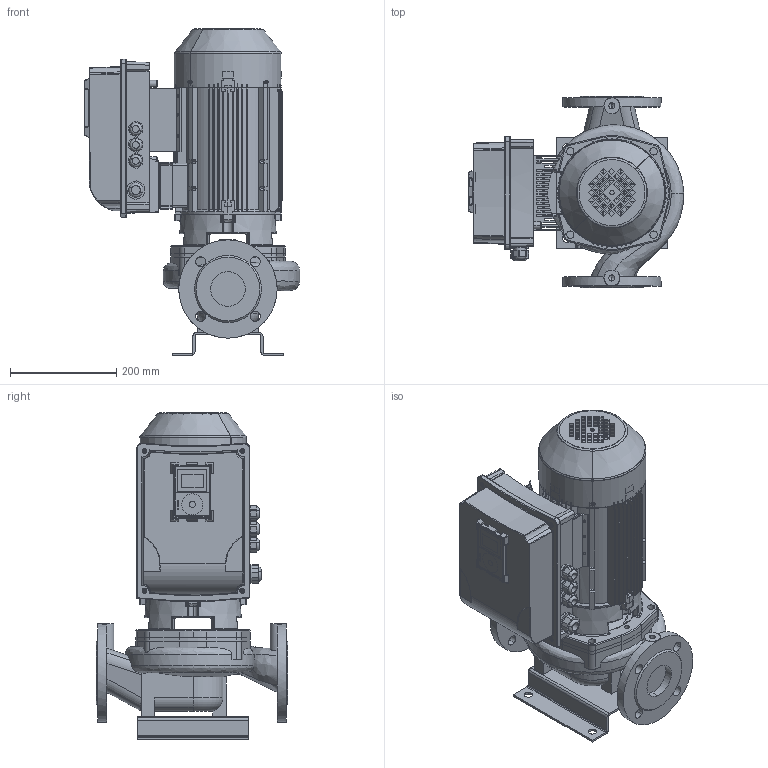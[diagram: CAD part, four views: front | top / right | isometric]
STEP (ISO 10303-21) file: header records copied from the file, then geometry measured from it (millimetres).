
FILE_DESCRIPTION(('STEP AP214'),'1');
FILE_NAME('export.stp','2018-06-01T13:30:07',(' '),(' '),'Spatial InterOp 3D',' ',' ');
FILE_SCHEMA(('AUTOMOTIVE_DESIGN { 1 0 10303 214 1 1 1 1 }'));
Length unit declared in the file: millimetre
Products named in the file (25): W_ALP10664; V_JALKA35973; V_PPAL10651066; V_TLL65AB80A1102; W_ALP10664300KPVS; 160027; 160005; V_MKP100-2-F19_VS; 160060___; 160059___; 160136; Vacon_MS2; G43699; Vacon20CP_MS2; MS2_bottom_final; P101407; MS2_cover_final; Vacon_Display; CAD-3D-VACON-M100-Display.sldasm; Vacon_display_pla; Vacon_display_scr; DIN_966-M5x10; M20_tiivisteholkk; M25_tiivisteholkk; SOVITUSPALA
Assembly tree (29 placements, depth 6):
  W_ALP10664300KPVS
    W_ALP10664
      V_JALKA35973
      V_PPAL10651066
      V_TLL65AB80A1102
    V_MKP100-2-F19_VS
      160027
        160005
      160060___
      160059___
      160136
      Vacon_MS2
        G43699
        Vacon20CP_MS2
          MS2_bottom_final
          P101407
          MS2_cover_final
          Vacon_Display
            CAD-3D-VACON-M100-Display.sldasm
            Vacon_display_pla
            Vacon_display_scr
          DIN_966-M5x10  x4
          M20_tiivisteholkk  x3
          M25_tiivisteholkk
      SOVITUSPALA
Bounding box: 405.31 x 360 x 615 mm (x, y, z)
Volume: 8678014.3 mm3; surface area: 2347037.8 mm2
Topology: 22 solids, 1496 shells, 4995 faces, 17120 edges, 13606 vertices
Faces by surface type: bspline 1785, plane 1387, cylinder 1098, torus 407, cone 264, sphere 54
Entity records: 234874 total; most frequent: CARTESIAN_POINT 97982, ORIENTED_EDGE 25332, DIRECTION 16759, EDGE_CURVE 16490, VERTEX_POINT 13288, B_SPLINE_CURVE_WITH_KNOTS 7800, AXIS2_PLACEMENT_3D 6376, EDGE_LOOP 5253
